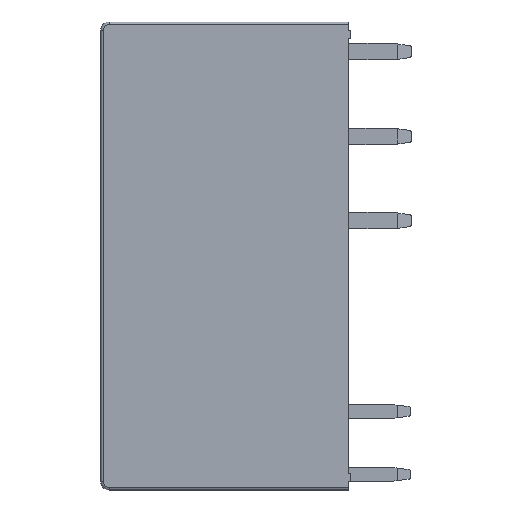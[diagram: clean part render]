
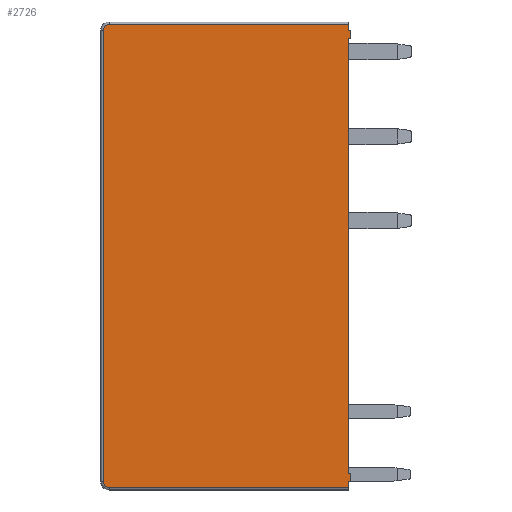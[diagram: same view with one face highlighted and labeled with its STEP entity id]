
A CAD part, left-side view. The second image highlights one B-rep face of the part: STEP entity #2726.
In plain terms, the highlighted planar face has unit normal (-1, 0, 0).
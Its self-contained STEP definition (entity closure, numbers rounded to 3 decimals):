
#25 = LINE ( 'NONE', #467, #1946 ) ;
#50 = DIRECTION ( 'NONE',  ( 0., 0., 1. ) ) ;
#63 = LINE ( 'NONE', #2114, #2066 ) ;
#92 = EDGE_CURVE ( 'NONE', #1054, #2560, #1542, .T. ) ;
#114 = ORIENTED_EDGE ( 'NONE', *, *, #2096, .T. ) ;
#127 = CARTESIAN_POINT ( 'NONE',  ( -0.528, -5.986, 13.4 ) ) ;
#134 = CARTESIAN_POINT ( 'NONE',  ( -0.528, -5.836, -13.5 ) ) ;
#136 = CARTESIAN_POINT ( 'NONE',  ( -0.528, -5.986, -13.5 ) ) ;
#188 = VECTOR ( 'NONE', #396, 1000. ) ;
#232 = CARTESIAN_POINT ( 'NONE',  ( -0.528, 8.764, 13.4 ) ) ;
#241 = VECTOR ( 'NONE', #2221, 1000. ) ;
#269 = CARTESIAN_POINT ( 'NONE',  ( -0.528, 8.414, -13.85 ) ) ;
#357 = DIRECTION ( 'NONE',  ( 0., 0., 1. ) ) ;
#365 = EDGE_CURVE ( 'NONE', #1974, #3027, #3281, .T. ) ;
#396 = DIRECTION ( 'NONE',  ( 0., -1., 0. ) ) ;
#399 = EDGE_CURVE ( 'NONE', #567, #1054, #478, .T. ) ;
#420 = VECTOR ( 'NONE', #2826, 1000. ) ;
#426 = CARTESIAN_POINT ( 'NONE',  ( -0.528, 8.414, -13.85 ) ) ;
#440 = ORIENTED_EDGE ( 'NONE', *, *, #399, .T. ) ;
#467 = CARTESIAN_POINT ( 'NONE',  ( -0.528, -5.836, 13.4 ) ) ;
#478 = LINE ( 'NONE', #1643, #1097 ) ;
#500 = EDGE_CURVE ( 'NONE', #1566, #2607, #2848, .T. ) ;
#567 = VERTEX_POINT ( 'NONE', #3217 ) ;
#580 = CARTESIAN_POINT ( 'NONE',  ( -0.528, -5.836, -13. ) ) ;
#634 = ORIENTED_EDGE ( 'NONE', *, *, #365, .T. ) ;
#676 = CARTESIAN_POINT ( 'NONE',  ( -0.528, -5.986, 12.9 ) ) ;
#721 = EDGE_CURVE ( 'NONE', #1594, #1625, #2810, .T. ) ;
#738 = LINE ( 'NONE', #2360, #2053 ) ;
#739 = CARTESIAN_POINT ( 'NONE',  ( -0.528, -5.836, 12.9 ) ) ;
#757 = DIRECTION ( 'NONE',  ( 0., 0., 1. ) ) ;
#760 = VERTEX_POINT ( 'NONE', #1272 ) ;
#762 = CARTESIAN_POINT ( 'NONE',  ( -0.528, -5.836, -14. ) ) ;
#783 = VECTOR ( 'NONE', #3007, 1000. ) ;
#888 = DIRECTION ( 'NONE',  ( 0., 1., 0. ) ) ;
#945 = EDGE_CURVE ( 'NONE', #3027, #2307, #2419, .T. ) ;
#981 = EDGE_CURVE ( 'NONE', #1625, #2831, #1412, .T. ) ;
#986 = DIRECTION ( 'NONE',  ( 0., 1., 0. ) ) ;
#1008 = EDGE_CURVE ( 'NONE', #2607, #567, #25, .T. ) ;
#1030 = VERTEX_POINT ( 'NONE', #3342 ) ;
#1052 = AXIS2_PLACEMENT_3D ( 'NONE', #3156, #1612, #50 ) ;
#1054 = VERTEX_POINT ( 'NONE', #1164 ) ;
#1086 = PLANE ( 'NONE',  #1052 ) ;
#1096 = EDGE_CURVE ( 'NONE', #1030, #1566, #1499, .T. ) ;
#1097 = VECTOR ( 'NONE', #2921, 1000. ) ;
#1116 = LINE ( 'NONE', #2302, #420 ) ;
#1129 = ORIENTED_EDGE ( 'NONE', *, *, #721, .T. ) ;
#1148 = AXIS2_PLACEMENT_3D ( 'NONE', #3351, #2316, #2582 ) ;
#1164 = CARTESIAN_POINT ( 'NONE',  ( -0.528, 8.414, 13.75 ) ) ;
#1197 = CARTESIAN_POINT ( 'NONE',  ( -0.528, -5.986, -13. ) ) ;
#1272 = CARTESIAN_POINT ( 'NONE',  ( -0.528, -5.836, -13.5 ) ) ;
#1304 = DIRECTION ( 'NONE',  ( 0., 0., 1. ) ) ;
#1343 = DIRECTION ( 'NONE',  ( 0., 0., -1. ) ) ;
#1408 = DIRECTION ( 'NONE',  ( -1., 0., 0. ) ) ;
#1412 = LINE ( 'NONE', #1197, #2709 ) ;
#1499 = LINE ( 'NONE', #676, #783 ) ;
#1542 = CIRCLE ( 'NONE', #1148, 0.35 ) ;
#1566 = VERTEX_POINT ( 'NONE', #2472 ) ;
#1594 = VERTEX_POINT ( 'NONE', #136 ) ;
#1601 = EDGE_CURVE ( 'NONE', #2095, #1030, #63, .T. ) ;
#1612 = DIRECTION ( 'NONE',  ( -1., 0., 0. ) ) ;
#1625 = VERTEX_POINT ( 'NONE', #2951 ) ;
#1643 = CARTESIAN_POINT ( 'NONE',  ( -0.528, 8.414, 13.75 ) ) ;
#1696 = ORIENTED_EDGE ( 'NONE', *, *, #92, .T. ) ;
#1789 = AXIS2_PLACEMENT_3D ( 'NONE', #2697, #1408, #357 ) ;
#1850 = FACE_OUTER_BOUND ( 'NONE', #3192, .T. ) ;
#1946 = VECTOR ( 'NONE', #1973, 1000. ) ;
#1973 = DIRECTION ( 'NONE',  ( 0., 0., 1. ) ) ;
#1974 = VERTEX_POINT ( 'NONE', #2250 ) ;
#2053 = VECTOR ( 'NONE', #1343, 1000. ) ;
#2066 = VECTOR ( 'NONE', #2192, 1000. ) ;
#2095 = VERTEX_POINT ( 'NONE', #739 ) ;
#2096 = EDGE_CURVE ( 'NONE', #2831, #2095, #1116, .T. ) ;
#2114 = CARTESIAN_POINT ( 'NONE',  ( -0.528, -5.836, 12.9 ) ) ;
#2119 = VECTOR ( 'NONE', #757, 1000. ) ;
#2148 = EDGE_CURVE ( 'NONE', #2307, #760, #2415, .T. ) ;
#2156 = VECTOR ( 'NONE', #888, 1000. ) ;
#2191 = ORIENTED_EDGE ( 'NONE', *, *, #2148, .T. ) ;
#2192 = DIRECTION ( 'NONE',  ( 0., -1., 0. ) ) ;
#2221 = DIRECTION ( 'NONE',  ( 0., -1., 0. ) ) ;
#2237 = EDGE_CURVE ( 'NONE', #2560, #1974, #738, .T. ) ;
#2250 = CARTESIAN_POINT ( 'NONE',  ( -0.528, 8.764, -13.5 ) ) ;
#2279 = ORIENTED_EDGE ( 'NONE', *, *, #2237, .T. ) ;
#2302 = CARTESIAN_POINT ( 'NONE',  ( -0.528, -5.836, -13. ) ) ;
#2307 = VERTEX_POINT ( 'NONE', #2733 ) ;
#2316 = DIRECTION ( 'NONE',  ( -1., 0., 0. ) ) ;
#2327 = CARTESIAN_POINT ( 'NONE',  ( -0.528, -5.836, 13.4 ) ) ;
#2360 = CARTESIAN_POINT ( 'NONE',  ( -0.528, 8.764, -13.5 ) ) ;
#2415 = LINE ( 'NONE', #762, #3181 ) ;
#2419 = LINE ( 'NONE', #426, #188 ) ;
#2472 = CARTESIAN_POINT ( 'NONE',  ( -0.528, -5.986, 13.4 ) ) ;
#2560 = VERTEX_POINT ( 'NONE', #232 ) ;
#2582 = DIRECTION ( 'NONE',  ( 0., 0., 1. ) ) ;
#2587 = ORIENTED_EDGE ( 'NONE', *, *, #1601, .T. ) ;
#2607 = VERTEX_POINT ( 'NONE', #2327 ) ;
#2697 = CARTESIAN_POINT ( 'NONE',  ( -0.528, 8.414, -13.5 ) ) ;
#2709 = VECTOR ( 'NONE', #986, 1000. ) ;
#2726 = ADVANCED_FACE ( 'NONE', ( #1850 ), #1086, .T. ) ;
#2733 = CARTESIAN_POINT ( 'NONE',  ( -0.528, -5.836, -13.85 ) ) ;
#2743 = LINE ( 'NONE', #134, #241 ) ;
#2746 = ORIENTED_EDGE ( 'NONE', *, *, #945, .T. ) ;
#2810 = LINE ( 'NONE', #3161, #2119 ) ;
#2826 = DIRECTION ( 'NONE',  ( 0., 0., 1. ) ) ;
#2831 = VERTEX_POINT ( 'NONE', #580 ) ;
#2848 = LINE ( 'NONE', #127, #2156 ) ;
#2915 = ORIENTED_EDGE ( 'NONE', *, *, #1008, .T. ) ;
#2921 = DIRECTION ( 'NONE',  ( 0., 1., 0. ) ) ;
#2937 = EDGE_CURVE ( 'NONE', #760, #1594, #2743, .T. ) ;
#2951 = CARTESIAN_POINT ( 'NONE',  ( -0.528, -5.986, -13. ) ) ;
#3007 = DIRECTION ( 'NONE',  ( 0., 0., 1. ) ) ;
#3027 = VERTEX_POINT ( 'NONE', #269 ) ;
#3053 = ORIENTED_EDGE ( 'NONE', *, *, #981, .T. ) ;
#3112 = ORIENTED_EDGE ( 'NONE', *, *, #2937, .T. ) ;
#3135 = ORIENTED_EDGE ( 'NONE', *, *, #500, .T. ) ;
#3156 = CARTESIAN_POINT ( 'NONE',  ( -0.528, 8.414, 13.4 ) ) ;
#3161 = CARTESIAN_POINT ( 'NONE',  ( -0.528, -5.986, -13.5 ) ) ;
#3181 = VECTOR ( 'NONE', #1304, 1000. ) ;
#3182 = ORIENTED_EDGE ( 'NONE', *, *, #1096, .T. ) ;
#3192 = EDGE_LOOP ( 'NONE', ( #2915, #440, #1696, #2279, #634, #2746, #2191, #3112, #1129, #3053, #114, #2587, #3182, #3135 ) ) ;
#3217 = CARTESIAN_POINT ( 'NONE',  ( -0.528, -5.836, 13.75 ) ) ;
#3281 = CIRCLE ( 'NONE', #1789, 0.35 ) ;
#3342 = CARTESIAN_POINT ( 'NONE',  ( -0.528, -5.986, 12.9 ) ) ;
#3351 = CARTESIAN_POINT ( 'NONE',  ( -0.528, 8.414, 13.4 ) ) ;
